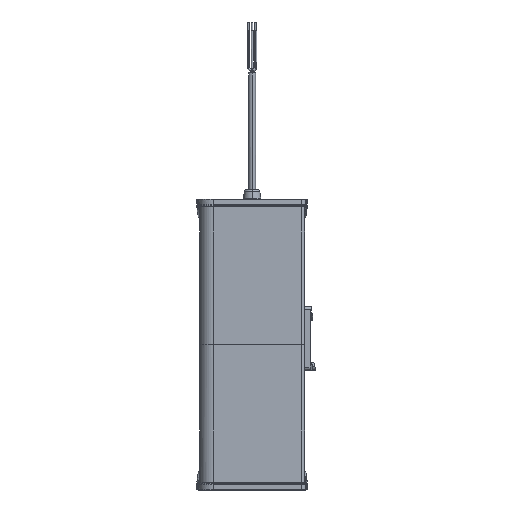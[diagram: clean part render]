
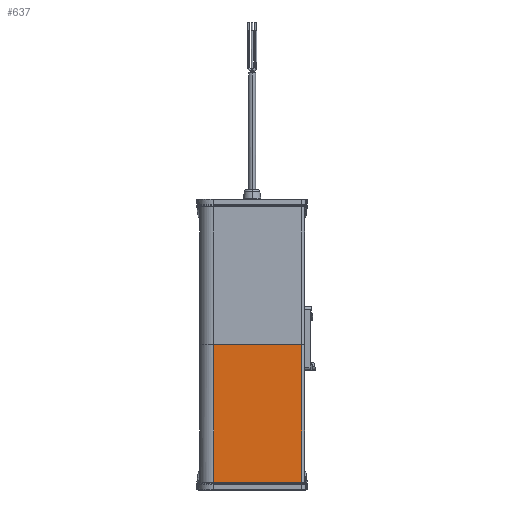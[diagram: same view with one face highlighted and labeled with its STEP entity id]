
A CAD part, left-side view. The second image highlights one B-rep face of the part: STEP entity #637.
In plain terms, the highlighted planar face has unit normal (-1, 0, 0).
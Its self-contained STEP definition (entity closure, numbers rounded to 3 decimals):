
#637=ADVANCED_FACE('',(#1823),#19046,.T.);
#1823=FACE_OUTER_BOUND('',#3009,.T.);
#3009=EDGE_LOOP('',(#4324,#4325,#4326,#4327));
#4324=ORIENTED_EDGE('',*,*,#10115,.F.);
#4325=ORIENTED_EDGE('',*,*,#10118,.F.);
#4326=ORIENTED_EDGE('',*,*,#10116,.F.);
#4327=ORIENTED_EDGE('',*,*,#10117,.F.);
#10115=EDGE_CURVE('',#16523,#16522,#15327,.T.);
#10116=EDGE_CURVE('',#16524,#16525,#15328,.T.);
#10117=EDGE_CURVE('',#16522,#16524,#15329,.T.);
#10118=EDGE_CURVE('',#16525,#16523,#15330,.T.);
#15327=B_SPLINE_CURVE_WITH_KNOTS('',1,(#21178,#21179),.UNSPECIFIED.,.F.,
 .F.,(2,2),(0.,100.),.UNSPECIFIED.);
#15328=B_SPLINE_CURVE_WITH_KNOTS('',1,(#21180,#21181),.UNSPECIFIED.,.F.,
 .F.,(2,2),(-100.,0.),.UNSPECIFIED.);
#15329=B_SPLINE_CURVE_WITH_KNOTS('',1,(#21182,#21183),.UNSPECIFIED.,.F.,
 .F.,(2,2),(-63.,0.),.UNSPECIFIED.);
#15330=B_SPLINE_CURVE_WITH_KNOTS('',1,(#21184,#21185),.UNSPECIFIED.,.F.,
 .F.,(2,2),(0.,63.),.UNSPECIFIED.);
#16522=VERTEX_POINT('',#20930);
#16523=VERTEX_POINT('',#20931);
#16524=VERTEX_POINT('',#20932);
#16525=VERTEX_POINT('',#20933);
#19046=PLANE('',#19358);
#19358=AXIS2_PLACEMENT_3D('',#20823,#20084,$);
#20084=DIRECTION('',(-1.,0.,0.));
#20823=CARTESIAN_POINT('',(369.911,33.808,10.));
#20930=CARTESIAN_POINT('',(369.911,27.508,0.));
#20931=CARTESIAN_POINT('',(369.911,27.508,-100.));
#20932=CARTESIAN_POINT('',(369.911,-35.492,0.));
#20933=CARTESIAN_POINT('',(369.911,-35.492,-100.));
#21178=CARTESIAN_POINT('',(369.911,27.508,-100.));
#21179=CARTESIAN_POINT('',(369.911,27.508,0.));
#21180=CARTESIAN_POINT('',(369.911,-35.492,0.));
#21181=CARTESIAN_POINT('',(369.911,-35.492,-100.));
#21182=CARTESIAN_POINT('',(369.911,27.508,0.));
#21183=CARTESIAN_POINT('',(369.911,-35.492,0.));
#21184=CARTESIAN_POINT('',(369.911,-35.492,-100.));
#21185=CARTESIAN_POINT('',(369.911,27.508,-100.));
